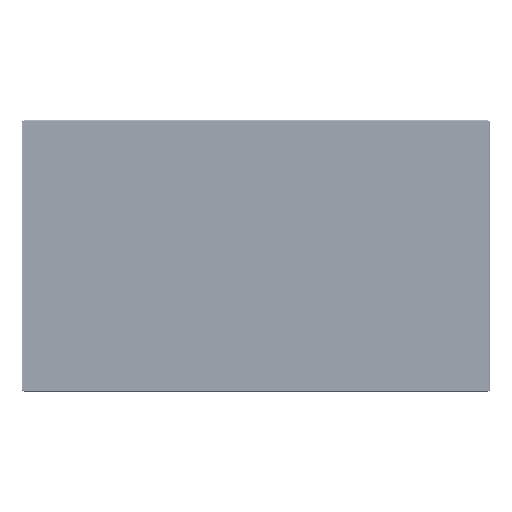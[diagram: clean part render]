
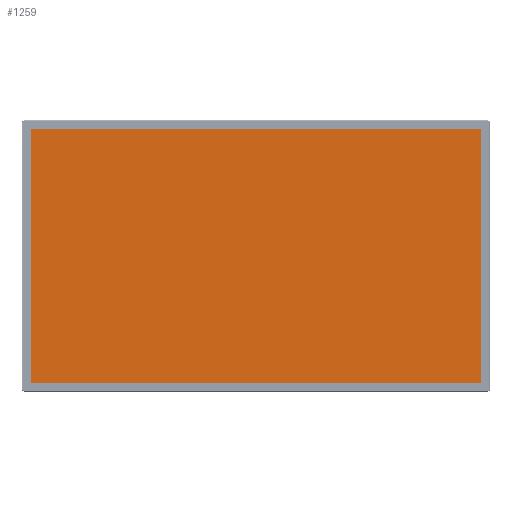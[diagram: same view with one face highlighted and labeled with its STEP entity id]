
A CAD part, top view. The second image highlights one B-rep face of the part: STEP entity #1259.
In plain terms, the highlighted planar face has unit normal (0, 0, 1).
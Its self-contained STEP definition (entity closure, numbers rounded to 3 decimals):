
#508=DIRECTION('',(-1.,0.,0.));
#509=VECTOR('',#508,1652.24);
#510=CARTESIAN_POINT('',(826.12,-465.13,2.5));
#511=LINE('',#510,#509);
#515=DIRECTION('',(0.,1.,0.));
#516=VECTOR('',#515,930.26);
#517=CARTESIAN_POINT('',(-826.12,-465.13,2.5));
#518=LINE('',#517,#516);
#522=DIRECTION('',(1.,0.,0.));
#523=VECTOR('',#522,1652.24);
#524=CARTESIAN_POINT('',(-826.12,465.13,2.5));
#525=LINE('',#524,#523);
#529=DIRECTION('',(0.,-1.,0.));
#530=VECTOR('',#529,930.26);
#531=CARTESIAN_POINT('',(826.12,465.13,2.5));
#532=LINE('',#531,#530);
#764=CARTESIAN_POINT('',(-826.12,-465.13,2.5));
#765=VERTEX_POINT('',#764);
#766=CARTESIAN_POINT('',(826.12,-465.13,2.5));
#767=VERTEX_POINT('',#766);
#768=CARTESIAN_POINT('',(-826.12,465.13,2.5));
#769=VERTEX_POINT('',#768);
#770=CARTESIAN_POINT('',(826.12,465.13,2.5));
#771=VERTEX_POINT('',#770);
#1248=CARTESIAN_POINT('',(0.,0.,2.5));
#1249=DIRECTION('',(0.,0.,1.));
#1250=DIRECTION('',(1.,0.,0.));
#1251=AXIS2_PLACEMENT_3D('',#1248,#1249,#1250);
#1252=PLANE('',#1251);
#1253=ORIENTED_EDGE('',*,*,#1200,.T.);
#1254=ORIENTED_EDGE('',*,*,#1215,.T.);
#1255=ORIENTED_EDGE('',*,*,#1229,.T.);
#1256=ORIENTED_EDGE('',*,*,#1242,.T.);
#1257=EDGE_LOOP('',(#1253,#1254,#1255,#1256));
#1258=FACE_OUTER_BOUND('',#1257,.F.);
#1259=ADVANCED_FACE('',(#1258),#1252,.T.);
#1200=EDGE_CURVE('',#767,#765,#511,.T.);
#1215=EDGE_CURVE('',#765,#769,#518,.T.);
#1229=EDGE_CURVE('',#769,#771,#525,.T.);
#1242=EDGE_CURVE('',#771,#767,#532,.T.);
